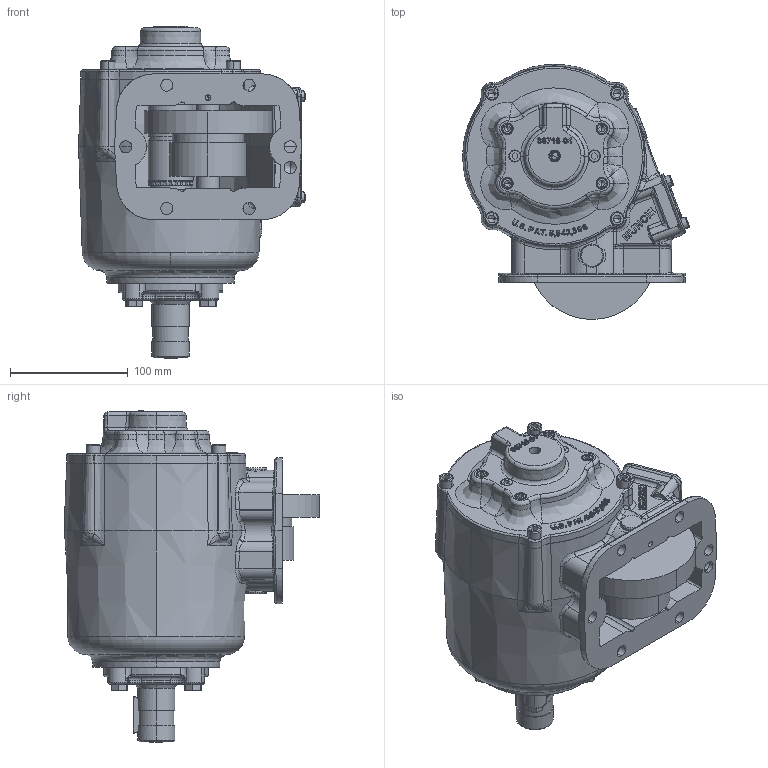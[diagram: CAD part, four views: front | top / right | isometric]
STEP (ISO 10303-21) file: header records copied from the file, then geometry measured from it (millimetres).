
FILE_DESCRIPTION (( 'STEP AP214' ), '1' );
FILE_NAME ('CS6S-A67XX-H1BX.STEP', '2015-04-27T17:22:32', ( '' ), ( '' ), 'SwSTEP 2.0', 'SolidWorks 2015', '' );
FILE_SCHEMA (( 'AUTOMOTIVE_DESIGN' ));
Length unit declared in the file: millimetre
Products named in the file (23): 19T41118; Input Gear abstract (CS6-CS8); 16T41119; 06t36892; 01T37073; 11T37790; 15T41683; CS6S-A67XX-H1BX; 19T36082; 26T01627; 19T34717; 25T21684; 19T36174; 27T36173_Free Length; 12T35949; 07T37071; 28T36546; 12T36751; Output Shaft Sub Assembly; 10T21017; 19T35237; 12T34003; 15T36717
Assembly tree (40 placements, depth 3):
  CS6S-A67XX-H1BX
    01T37073
    16T41119
    19T41118  x4
    15T36717
    12T34003
    19T35237  x4
    Output Shaft Sub Assembly
      10T21017
    10T21017
    12T36751
    28T36546
    07T37071
    12T35949  x2
    27T36173_Free Length  x4
    19T36174  x4
    25T21684  x2
    19T34717  x4
    26T01627
    19T36082
    15T41683
    11T37790
    06t36892
    Input Gear abstract (CS6-CS8)
Bounding box: 192.82 x 216.75 x 282.13 mm (x, y, z)
Volume: 1766861.6 mm3; surface area: 480447.6 mm2
Topology: 39 solids, 39 shells, 2700 faces, 6848 edges, 4176 vertices
Faces by surface type: bspline 783, plane 651, cylinder 628, cone 363, torus 225, sphere 50
Entity records: 152907 total; most frequent: CARTESIAN_POINT 102639, ORIENTED_EDGE 11326, DIRECTION 8065, EDGE_CURVE 5663, VERTEX_POINT 3519, AXIS2_PLACEMENT_3D 3138, EDGE_LOOP 2452, FACE_OUTER_BOUND 2263
